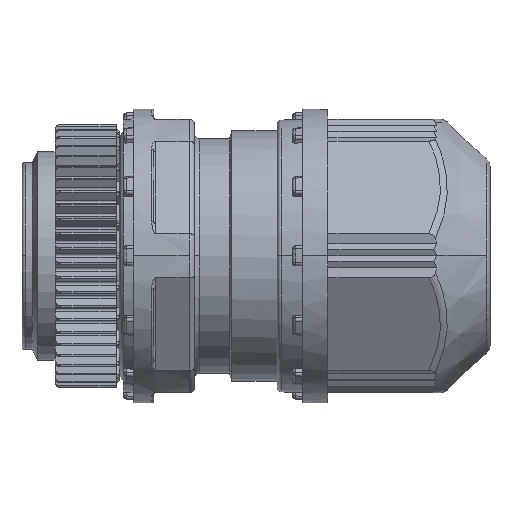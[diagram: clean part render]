
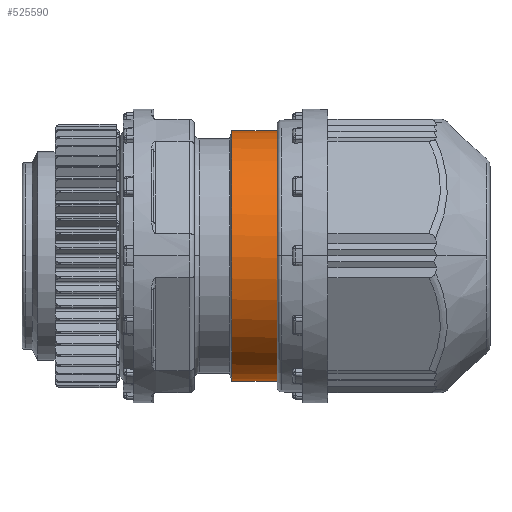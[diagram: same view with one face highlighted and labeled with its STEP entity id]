
A CAD part, top view. The second image highlights one B-rep face of the part: STEP entity #525590.
In plain terms, the highlighted cylindrical face has radius 12.35 mm (diameter 24.7 mm), a partial arc.
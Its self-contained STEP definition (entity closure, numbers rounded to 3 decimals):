
#230350=CARTESIAN_POINT('',(81.774,52.439,
0.));
#230360=DIRECTION('',(1.,0.,0.));
#230370=DIRECTION('',(0.,0.,1.));
#230380=AXIS2_PLACEMENT_3D('',#230350,#230360,#230370);
#230390=CIRCLE('',#230380,12.35);
#230420=CARTESIAN_POINT('',(81.774,52.223,
12.348));
#230430=VERTEX_POINT('',#230420);
#230460=CARTESIAN_POINT('',(86.074,52.223,
12.348));
#230470=DIRECTION('',(1.,0.,0.));
#230480=VECTOR('',#230470,1.);
#230490=LINE('',#230460,#230480);
#230500=CARTESIAN_POINT('',(76.775,52.223,
12.348));
#230510=VERTEX_POINT('',#230500);
#230520=EDGE_CURVE('',#230510,#230430,#230490,.T.);
#230540=CARTESIAN_POINT('',(76.775,52.439,
0.));
#230550=DIRECTION('',(1.,0.,0.));
#230560=DIRECTION('',(0.,0.,-1.));
#230570=AXIS2_PLACEMENT_3D('',#230540,#230550,#230560);
#230580=CIRCLE('',#230570,12.35);
#230630=CARTESIAN_POINT('',(76.775,52.654,
-12.348));
#230640=VERTEX_POINT('',#230630);
#230670=CARTESIAN_POINT('',(86.074,52.654,
-12.348));
#230680=DIRECTION('',(1.,0.,0.));
#230690=VECTOR('',#230680,1.);
#230700=LINE('',#230670,#230690);
#230710=CARTESIAN_POINT('',(81.774,52.654,
-12.348));
#230720=VERTEX_POINT('',#230710);
#230730=EDGE_CURVE('',#230640,#230720,#230700,.T.);
#246030=CARTESIAN_POINT('',(76.775,52.439,
-12.35));
#246040=VERTEX_POINT('',#246030);
#246070=EDGE_CURVE('',#246040,#230640,#230580,.T.);
#425420=EDGE_CURVE('',#230430,#230720,#230390,.T.);
#523870=EDGE_CURVE('',#230510,#246040,#230580,.T.);
#525470=CARTESIAN_POINT('',(86.074,52.439,
0.));
#525480=DIRECTION('',(1.,0.,0.));
#525490=DIRECTION('',(0.,0.017,
-1.));
#525500=AXIS2_PLACEMENT_3D('',#525470,#525480,#525490);
#525510=CYLINDRICAL_SURFACE('',#525500,12.35);
#525520=ORIENTED_EDGE('',*,*,#246070,.T.);
#525530=ORIENTED_EDGE('',*,*,#523870,.T.);
#525540=ORIENTED_EDGE('',*,*,#230520,.F.);
#525550=ORIENTED_EDGE('',*,*,#425420,.F.);
#525560=ORIENTED_EDGE('',*,*,#230730,.T.);
#525570=EDGE_LOOP('',(#525560,#525550,#525540,#525530,#525520));
#525580=FACE_OUTER_BOUND('',#525570,.T.);
#525590=ADVANCED_FACE('',(#525580),#525510,.T.);
